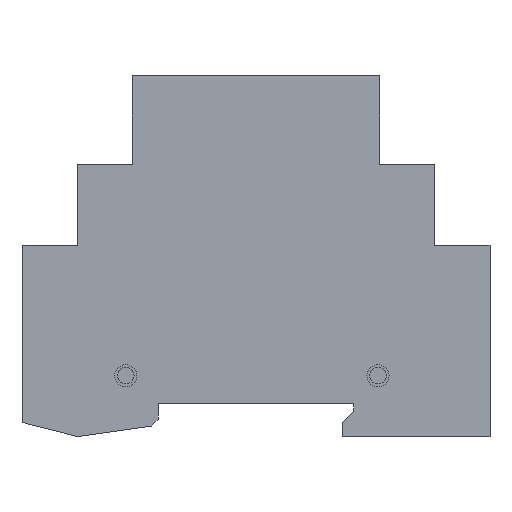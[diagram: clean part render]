
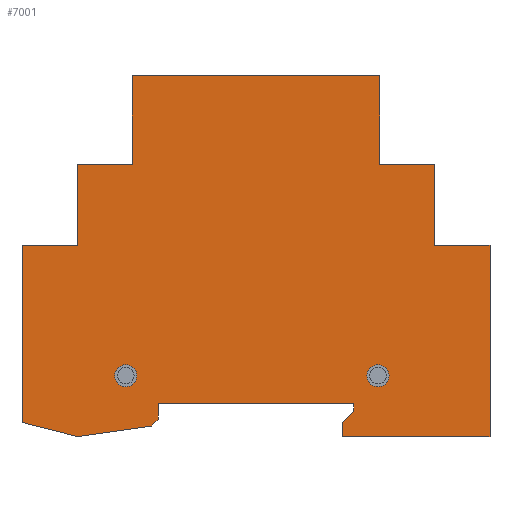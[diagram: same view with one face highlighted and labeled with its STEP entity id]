
A CAD part, left-side view. The second image highlights one B-rep face of the part: STEP entity #7001.
In plain terms, the highlighted planar face has unit normal (-1, 0, 0).
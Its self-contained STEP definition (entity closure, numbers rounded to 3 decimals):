
#327=LINE('',#10075,#898);
#330=LINE('',#10080,#901);
#332=LINE('',#10084,#903);
#334=LINE('',#10088,#905);
#336=LINE('',#10092,#907);
#338=LINE('',#10096,#909);
#340=LINE('',#10100,#911);
#342=LINE('',#10104,#913);
#344=LINE('',#10108,#915);
#346=LINE('',#10112,#917);
#348=LINE('',#10116,#919);
#350=LINE('',#10120,#921);
#352=LINE('',#10124,#923);
#354=LINE('',#10128,#925);
#356=LINE('',#10132,#927);
#358=LINE('',#10136,#929);
#360=LINE('',#10140,#931);
#362=LINE('',#10144,#933);
#364=LINE('',#10148,#935);
#366=LINE('',#10152,#937);
#368=LINE('',#10155,#939);
#898=VECTOR('',#8246,10.);
#901=VECTOR('',#8251,10.);
#903=VECTOR('',#8255,10.);
#905=VECTOR('',#8259,10.);
#907=VECTOR('',#8263,10.);
#909=VECTOR('',#8267,10.);
#911=VECTOR('',#8271,10.);
#913=VECTOR('',#8275,10.);
#915=VECTOR('',#8279,10.);
#917=VECTOR('',#8283,10.);
#919=VECTOR('',#8287,10.);
#921=VECTOR('',#8291,10.);
#923=VECTOR('',#8295,10.);
#925=VECTOR('',#8299,10.);
#927=VECTOR('',#8303,10.);
#929=VECTOR('',#8307,10.);
#931=VECTOR('',#8311,10.);
#933=VECTOR('',#8315,10.);
#935=VECTOR('',#8319,10.);
#937=VECTOR('',#8323,10.);
#939=VECTOR('',#8327,10.);
#1486=FACE_BOUND('',#2228,.T.);
#1487=FACE_BOUND('',#2229,.T.);
#1738=FACE_OUTER_BOUND('',#2227,.T.);
#2227=EDGE_LOOP('',(#4828,#4829,#4830,#4831,#4832,#4833,#4834,#4835,#4836,
#4837,#4838,#4839,#4840,#4841,#4842,#4843,#4844,#4845,#4846,#4847,#4848));
#2228=EDGE_LOOP('',(#4849));
#2229=EDGE_LOOP('',(#4850));
#2779=CIRCLE('',#7510,2.);
#2781=CIRCLE('',#7514,2.);
#3032=VERTEX_POINT('',#10063);
#3034=VERTEX_POINT('',#10069);
#3035=VERTEX_POINT('',#10073);
#3036=VERTEX_POINT('',#10074);
#3037=VERTEX_POINT('',#10079);
#3038=VERTEX_POINT('',#10083);
#3039=VERTEX_POINT('',#10087);
#3040=VERTEX_POINT('',#10091);
#3041=VERTEX_POINT('',#10095);
#3042=VERTEX_POINT('',#10099);
#3043=VERTEX_POINT('',#10103);
#3044=VERTEX_POINT('',#10107);
#3045=VERTEX_POINT('',#10111);
#3046=VERTEX_POINT('',#10115);
#3047=VERTEX_POINT('',#10119);
#3048=VERTEX_POINT('',#10123);
#3049=VERTEX_POINT('',#10127);
#3050=VERTEX_POINT('',#10131);
#3051=VERTEX_POINT('',#10135);
#3052=VERTEX_POINT('',#10139);
#3053=VERTEX_POINT('',#10143);
#3054=VERTEX_POINT('',#10147);
#3055=VERTEX_POINT('',#10151);
#3734=EDGE_CURVE('',#3032,#3032,#2779,.T.);
#3736=EDGE_CURVE('',#3034,#3034,#2781,.T.);
#3737=EDGE_CURVE('',#3035,#3036,#327,.T.);
#3740=EDGE_CURVE('',#3037,#3035,#330,.T.);
#3742=EDGE_CURVE('',#3038,#3037,#332,.T.);
#3744=EDGE_CURVE('',#3039,#3038,#334,.T.);
#3746=EDGE_CURVE('',#3040,#3039,#336,.T.);
#3748=EDGE_CURVE('',#3041,#3040,#338,.T.);
#3750=EDGE_CURVE('',#3042,#3041,#340,.T.);
#3752=EDGE_CURVE('',#3043,#3042,#342,.T.);
#3754=EDGE_CURVE('',#3044,#3043,#344,.T.);
#3756=EDGE_CURVE('',#3045,#3044,#346,.T.);
#3758=EDGE_CURVE('',#3046,#3045,#348,.T.);
#3760=EDGE_CURVE('',#3047,#3046,#350,.T.);
#3762=EDGE_CURVE('',#3048,#3047,#352,.T.);
#3764=EDGE_CURVE('',#3049,#3048,#354,.T.);
#3766=EDGE_CURVE('',#3050,#3049,#356,.T.);
#3768=EDGE_CURVE('',#3051,#3050,#358,.T.);
#3770=EDGE_CURVE('',#3052,#3051,#360,.T.);
#3772=EDGE_CURVE('',#3053,#3052,#362,.T.);
#3774=EDGE_CURVE('',#3054,#3053,#364,.T.);
#3776=EDGE_CURVE('',#3055,#3054,#366,.T.);
#3778=EDGE_CURVE('',#3036,#3055,#368,.T.);
#4828=ORIENTED_EDGE('',*,*,#3778,.F.);
#4829=ORIENTED_EDGE('',*,*,#3737,.F.);
#4830=ORIENTED_EDGE('',*,*,#3740,.F.);
#4831=ORIENTED_EDGE('',*,*,#3742,.F.);
#4832=ORIENTED_EDGE('',*,*,#3744,.F.);
#4833=ORIENTED_EDGE('',*,*,#3746,.F.);
#4834=ORIENTED_EDGE('',*,*,#3748,.F.);
#4835=ORIENTED_EDGE('',*,*,#3750,.F.);
#4836=ORIENTED_EDGE('',*,*,#3752,.F.);
#4837=ORIENTED_EDGE('',*,*,#3754,.F.);
#4838=ORIENTED_EDGE('',*,*,#3756,.F.);
#4839=ORIENTED_EDGE('',*,*,#3758,.F.);
#4840=ORIENTED_EDGE('',*,*,#3760,.F.);
#4841=ORIENTED_EDGE('',*,*,#3762,.F.);
#4842=ORIENTED_EDGE('',*,*,#3764,.F.);
#4843=ORIENTED_EDGE('',*,*,#3766,.F.);
#4844=ORIENTED_EDGE('',*,*,#3768,.F.);
#4845=ORIENTED_EDGE('',*,*,#3770,.F.);
#4846=ORIENTED_EDGE('',*,*,#3772,.F.);
#4847=ORIENTED_EDGE('',*,*,#3774,.F.);
#4848=ORIENTED_EDGE('',*,*,#3776,.F.);
#4849=ORIENTED_EDGE('',*,*,#3734,.T.);
#4850=ORIENTED_EDGE('',*,*,#3736,.T.);
#6657=PLANE('',#7537);
#7001=ADVANCED_FACE('',(#1738,#1486,#1487),#6657,.F.);
#7510=AXIS2_PLACEMENT_3D('',#10064,#8232,#8233);
#7514=AXIS2_PLACEMENT_3D('',#10070,#8240,#8241);
#7537=AXIS2_PLACEMENT_3D('',#10156,#8328,#8329);
#8232=DIRECTION('center_axis',(1.,0.,0.));
#8233=DIRECTION('ref_axis',(0.,0.,-1.));
#8240=DIRECTION('center_axis',(1.,0.,0.));
#8241=DIRECTION('ref_axis',(0.,0.,-1.));
#8246=DIRECTION('',(0.,0.969,0.248));
#8251=DIRECTION('',(0.,0.99,-0.141));
#8255=DIRECTION('',(0.,0.707,-0.707));
#8259=DIRECTION('',(0.,0.,-1.));
#8263=DIRECTION('',(0.,1.,0.));
#8267=DIRECTION('',(0.,0.,1.));
#8271=DIRECTION('',(0.,-1.,0.));
#8275=DIRECTION('',(0.,-0.707,0.707));
#8279=DIRECTION('',(0.,0.,1.));
#8283=DIRECTION('',(0.,1.,0.));
#8287=DIRECTION('',(0.,0.,-1.));
#8291=DIRECTION('',(0.,-1.,0.));
#8295=DIRECTION('',(0.,0.,-1.));
#8299=DIRECTION('',(0.,-1.,0.));
#8303=DIRECTION('',(0.,0.,-1.));
#8307=DIRECTION('',(0.,-1.,0.));
#8311=DIRECTION('',(0.,0.,1.));
#8315=DIRECTION('',(0.,-1.,0.));
#8319=DIRECTION('',(0.,0.,1.));
#8323=DIRECTION('',(0.,-1.,0.));
#8327=DIRECTION('',(0.,0.,1.));
#8328=DIRECTION('center_axis',(1.,0.,0.));
#8329=DIRECTION('ref_axis',(0.,0.,-1.));
#10063=CARTESIAN_POINT('',(0.,28.481,-16.033));
#10064=CARTESIAN_POINT('Origin',(0.,28.481,-18.033));
#10069=CARTESIAN_POINT('',(0.,-17.327,-16.033));
#10070=CARTESIAN_POINT('Origin',(0.,-17.327,-18.033));
#10073=CARTESIAN_POINT('',(0.,37.329,-29.095));
#10074=CARTESIAN_POINT('',(0.,47.329,-26.53));
#10075=CARTESIAN_POINT('',(0.,37.329,-29.095));
#10079=CARTESIAN_POINT('',(0.,23.84,-27.176));
#10080=CARTESIAN_POINT('',(0.,23.84,-27.176));
#10083=CARTESIAN_POINT('',(0.,22.579,-25.916));
#10084=CARTESIAN_POINT('',(0.,22.579,-25.916));
#10087=CARTESIAN_POINT('',(0.,22.579,-23.092));
#10088=CARTESIAN_POINT('',(0.,22.579,-23.092));
#10091=CARTESIAN_POINT('',(0.,-12.921,-23.092));
#10092=CARTESIAN_POINT('',(0.,-12.921,-23.092));
#10095=CARTESIAN_POINT('',(0.,-12.921,-24.527));
#10096=CARTESIAN_POINT('',(0.,-12.921,-24.527));
#10099=CARTESIAN_POINT('',(0.,-12.823,-24.527));
#10100=CARTESIAN_POINT('',(0.,-12.823,-24.527));
#10103=CARTESIAN_POINT('',(0.,-10.823,-26.527));
#10104=CARTESIAN_POINT('',(0.,-10.823,-26.527));
#10107=CARTESIAN_POINT('',(0.,-10.823,-29.095));
#10108=CARTESIAN_POINT('',(0.,-10.823,-29.095));
#10111=CARTESIAN_POINT('',(0.,-37.671,-29.095));
#10112=CARTESIAN_POINT('',(0.,-37.671,-29.095));
#10115=CARTESIAN_POINT('',(0.,-37.671,5.658));
#10116=CARTESIAN_POINT('',(0.,-37.671,5.658));
#10119=CARTESIAN_POINT('',(0.,-27.671,5.658));
#10120=CARTESIAN_POINT('',(0.,-27.671,5.658));
#10123=CARTESIAN_POINT('',(0.,-27.671,20.405));
#10124=CARTESIAN_POINT('',(0.,-27.671,20.405));
#10127=CARTESIAN_POINT('',(0.,-17.671,20.405));
#10128=CARTESIAN_POINT('',(0.,-17.671,20.405));
#10131=CARTESIAN_POINT('',(0.,-17.671,36.405));
#10132=CARTESIAN_POINT('',(0.,-17.671,36.405));
#10135=CARTESIAN_POINT('',(0.,27.329,36.405));
#10136=CARTESIAN_POINT('',(0.,27.329,36.405));
#10139=CARTESIAN_POINT('',(0.,27.329,20.405));
#10140=CARTESIAN_POINT('',(0.,27.329,20.405));
#10143=CARTESIAN_POINT('',(0.,37.329,20.405));
#10144=CARTESIAN_POINT('',(0.,37.329,20.405));
#10147=CARTESIAN_POINT('',(0.,37.329,5.658));
#10148=CARTESIAN_POINT('',(0.,37.329,5.658));
#10151=CARTESIAN_POINT('',(0.,47.329,5.658));
#10152=CARTESIAN_POINT('',(0.,47.329,5.658));
#10155=CARTESIAN_POINT('',(0.,47.329,-26.53));
#10156=CARTESIAN_POINT('Origin',(0.,4.241,0.455));
